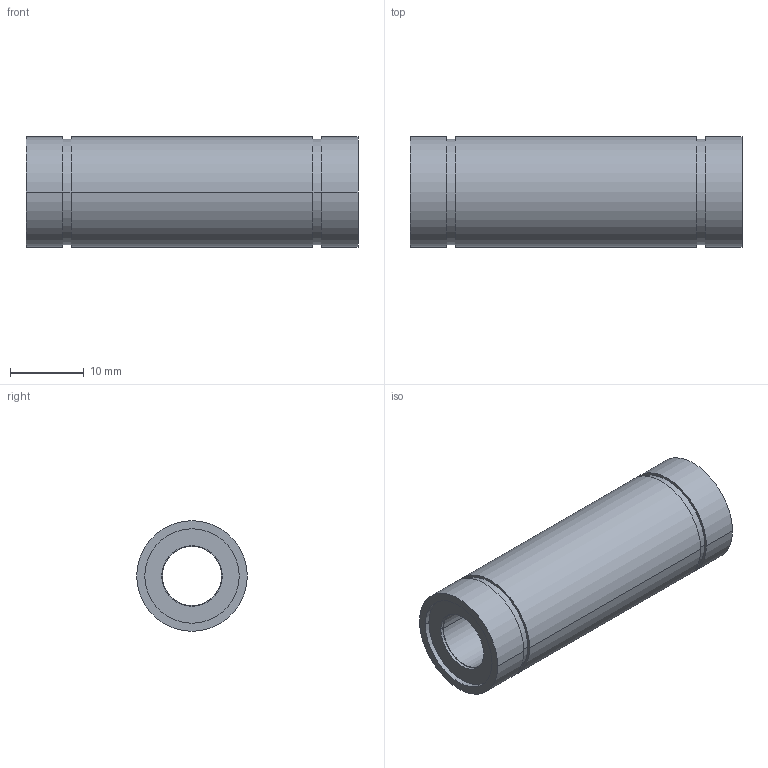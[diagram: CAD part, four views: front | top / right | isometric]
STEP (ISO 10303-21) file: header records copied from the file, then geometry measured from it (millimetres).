
FILE_DESCRIPTION(('FreeCAD Model'),'2;1');
FILE_NAME('Open CASCADE Shape Model','2021-05-03T15:26:35',('Author'),( ''),'Open CASCADE STEP processor 7.5','FreeCAD','Unknown');
FILE_SCHEMA(('AUTOMOTIVE_DESIGN { 1 0 10303 214 1 1 1 1 }'));
Length unit declared in the file: millimetre
Products named in the file (4): ball_bearing_lm-08luu__1; SOLID; SOLID001; SOLID002
Assembly tree (3 placements, depth 2):
  ball_bearing_lm-08luu__1
    SOLID
    SOLID001
    SOLID002
Bounding box: 45 x 15 x 15 mm (x, y, z)
Volume: 5541.1 mm3; surface area: 4125.4 mm2
Topology: 3 solids, 3 shells, 42 faces, 84 edges, 56 vertices
Faces by surface type: cylinder 28, plane 14
Entity records: 2423 total; most frequent: CARTESIAN_POINT 558, DIRECTION 366, ORIENTED_EDGE 168, PCURVE 168, DEFINITIONAL_REPRESENTATION 168, LINE 140, VECTOR 140, AXIS2_PLACEMENT_3D 102
